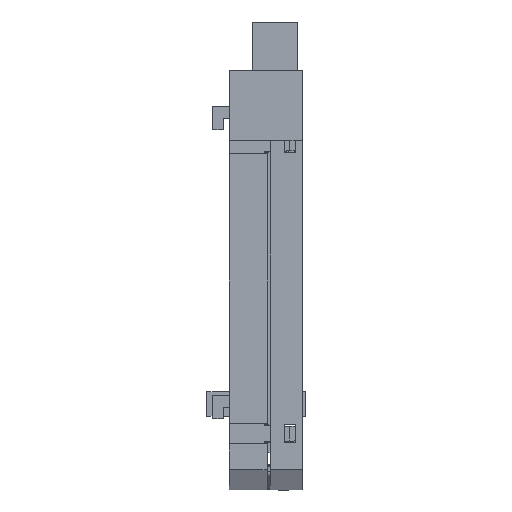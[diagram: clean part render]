
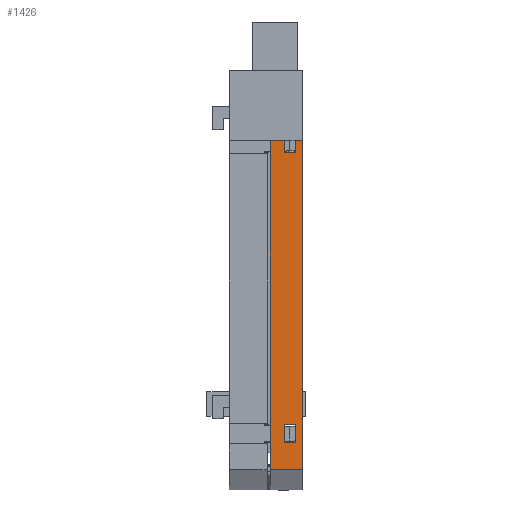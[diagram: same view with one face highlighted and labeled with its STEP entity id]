
A CAD part, front view. The second image highlights one B-rep face of the part: STEP entity #1426.
In plain terms, the highlighted planar face has unit normal (0, -1, 0).
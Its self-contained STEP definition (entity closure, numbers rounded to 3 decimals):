
#141 = LINE ( 'NONE', #4240, #29446 ) ;
#496 = ORIENTED_EDGE ( 'NONE', *, *, #35285, .F. ) ;
#662 = VECTOR ( 'NONE', #14533, 1000. ) ;
#775 = ORIENTED_EDGE ( 'NONE', *, *, #20436, .T. ) ;
#1426 = ADVANCED_FACE ( 'NONE', ( #25092, #10007, #4252 ), #25383, .F. ) ;
#1582 = AXIS2_PLACEMENT_3D ( 'NONE', #8421, #34010, #16917 ) ;
#2453 = LINE ( 'NONE', #26609, #17467 ) ;
#2573 = EDGE_LOOP ( 'NONE', ( #32146, #34829, #19950, #23705 ) ) ;
#3080 = CARTESIAN_POINT ( 'NONE',  ( 2.4, 0., -60.645 ) ) ;
#3287 = VERTEX_POINT ( 'NONE', #33517 ) ;
#3928 = EDGE_LOOP ( 'NONE', ( #28674, #36473, #496, #7624 ) ) ;
#4240 = CARTESIAN_POINT ( 'NONE',  ( 5.5, 0., 0. ) ) ;
#4252 = FACE_OUTER_BOUND ( 'NONE', #3928, .T. ) ;
#4804 = LINE ( 'NONE', #25347, #26537 ) ;
#5065 = CARTESIAN_POINT ( 'NONE',  ( 4.4, 0., -7.845 ) ) ;
#5071 = LINE ( 'NONE', #15295, #26807 ) ;
#5385 = CARTESIAN_POINT ( 'NONE',  ( 5.5, 0., 0. ) ) ;
#5935 = DIRECTION ( 'NONE',  ( 0., 0., 1. ) ) ;
#6434 = CARTESIAN_POINT ( 'NONE',  ( 4.4, 0., -60.645 ) ) ;
#6684 = CARTESIAN_POINT ( 'NONE',  ( 4.4, 0., -60.645 ) ) ;
#7269 = VERTEX_POINT ( 'NONE', #35375 ) ;
#7624 = ORIENTED_EDGE ( 'NONE', *, *, #17997, .T. ) ;
#8148 = EDGE_CURVE ( 'NONE', #8535, #27225, #4804, .T. ) ;
#8369 = LINE ( 'NONE', #6434, #21607 ) ;
#8421 = CARTESIAN_POINT ( 'NONE',  ( 5.5, 0., 0. ) ) ;
#8535 = VERTEX_POINT ( 'NONE', #32407 ) ;
#9596 = DIRECTION ( 'NONE',  ( 1., 0., 0. ) ) ;
#10007 = FACE_BOUND ( 'NONE', #2573, .T. ) ;
#10246 = EDGE_CURVE ( 'NONE', #30818, #28891, #5071, .T. ) ;
#10320 = VERTEX_POINT ( 'NONE', #24261 ) ;
#10630 = VERTEX_POINT ( 'NONE', #28351 ) ;
#11506 = CARTESIAN_POINT ( 'NONE',  ( 2.4, 0., -10.945 ) ) ;
#11693 = CARTESIAN_POINT ( 'NONE',  ( 2.4, 0., -60.645 ) ) ;
#12454 = CARTESIAN_POINT ( 'NONE',  ( 5.5, 0., -65.25 ) ) ;
#12945 = VERTEX_POINT ( 'NONE', #21345 ) ;
#13668 = CARTESIAN_POINT ( 'NONE',  ( 2.4, 0., -57.545 ) ) ;
#14533 = DIRECTION ( 'NONE',  ( -1., 0., 0. ) ) ;
#15295 = CARTESIAN_POINT ( 'NONE',  ( 4.4, 0., -10.945 ) ) ;
#15592 = DIRECTION ( 'NONE',  ( -1., 0., 0. ) ) ;
#15726 = EDGE_LOOP ( 'NONE', ( #24273, #16954, #25018, #775 ) ) ;
#16593 = LINE ( 'NONE', #11693, #662 ) ;
#16739 = DIRECTION ( 'NONE',  ( 0., 0., -1. ) ) ;
#16917 = DIRECTION ( 'NONE',  ( 0., 0., 1. ) ) ;
#16954 = ORIENTED_EDGE ( 'NONE', *, *, #30658, .T. ) ;
#16998 = DIRECTION ( 'NONE',  ( 0., 0., 1. ) ) ;
#17403 = EDGE_CURVE ( 'NONE', #30058, #3287, #16593, .T. ) ;
#17467 = VECTOR ( 'NONE', #9596, 1000. ) ;
#17726 = VERTEX_POINT ( 'NONE', #13668 ) ;
#17997 = EDGE_CURVE ( 'NONE', #20873, #10320, #141, .T. ) ;
#18015 = VECTOR ( 'NONE', #5935, 1000. ) ;
#18448 = VECTOR ( 'NONE', #31408, 1000. ) ;
#18624 = DIRECTION ( 'NONE',  ( 0., 0., -1. ) ) ;
#19391 = CARTESIAN_POINT ( 'NONE',  ( 5.5, 0., 0. ) ) ;
#19615 = EDGE_CURVE ( 'NONE', #10320, #10630, #29258, .T. ) ;
#19950 = ORIENTED_EDGE ( 'NONE', *, *, #25795, .T. ) ;
#20436 = EDGE_CURVE ( 'NONE', #28891, #8535, #26025, .T. ) ;
#20873 = VERTEX_POINT ( 'NONE', #19391 ) ;
#21345 = CARTESIAN_POINT ( 'NONE',  ( 5.5, 0., -65.25 ) ) ;
#21607 = VECTOR ( 'NONE', #23424, 1000. ) ;
#23378 = LINE ( 'NONE', #12454, #30137 ) ;
#23424 = DIRECTION ( 'NONE',  ( 0., 0., -1. ) ) ;
#23705 = ORIENTED_EDGE ( 'NONE', *, *, #24669, .T. ) ;
#24261 = CARTESIAN_POINT ( 'NONE',  ( 0., 0., 0. ) ) ;
#24273 = ORIENTED_EDGE ( 'NONE', *, *, #8148, .T. ) ;
#24669 = EDGE_CURVE ( 'NONE', #7269, #30058, #8369, .T. ) ;
#24749 = CARTESIAN_POINT ( 'NONE',  ( 2.4, 0., -7.845 ) ) ;
#25018 = ORIENTED_EDGE ( 'NONE', *, *, #10246, .T. ) ;
#25055 = EDGE_CURVE ( 'NONE', #3287, #17726, #34100, .T. ) ;
#25092 = FACE_BOUND ( 'NONE', #15726, .T. ) ;
#25327 = LINE ( 'NONE', #5385, #32003 ) ;
#25347 = CARTESIAN_POINT ( 'NONE',  ( 2.4, 0., -10.945 ) ) ;
#25383 = PLANE ( 'NONE',  #1582 ) ;
#25795 = EDGE_CURVE ( 'NONE', #17726, #7269, #2453, .T. ) ;
#26025 = LINE ( 'NONE', #11506, #18448 ) ;
#26114 = VECTOR ( 'NONE', #29907, 1000. ) ;
#26537 = VECTOR ( 'NONE', #16998, 1000. ) ;
#26609 = CARTESIAN_POINT ( 'NONE',  ( 2.4, 0., -57.545 ) ) ;
#26807 = VECTOR ( 'NONE', #35216, 1000. ) ;
#27033 = LINE ( 'NONE', #27037, #26114 ) ;
#27037 = CARTESIAN_POINT ( 'NONE',  ( 2.4, 0., -7.845 ) ) ;
#27133 = CARTESIAN_POINT ( 'NONE',  ( 0., 0., 0. ) ) ;
#27225 = VERTEX_POINT ( 'NONE', #24749 ) ;
#28351 = CARTESIAN_POINT ( 'NONE',  ( 0., 0., -65.25 ) ) ;
#28674 = ORIENTED_EDGE ( 'NONE', *, *, #19615, .T. ) ;
#28891 = VERTEX_POINT ( 'NONE', #32220 ) ;
#29258 = LINE ( 'NONE', #27133, #35929 ) ;
#29446 = VECTOR ( 'NONE', #15592, 1000. ) ;
#29907 = DIRECTION ( 'NONE',  ( 1., 0., 0. ) ) ;
#30058 = VERTEX_POINT ( 'NONE', #6684 ) ;
#30137 = VECTOR ( 'NONE', #35183, 1000. ) ;
#30658 = EDGE_CURVE ( 'NONE', #27225, #30818, #27033, .T. ) ;
#30818 = VERTEX_POINT ( 'NONE', #5065 ) ;
#31169 = EDGE_CURVE ( 'NONE', #12945, #10630, #23378, .T. ) ;
#31408 = DIRECTION ( 'NONE',  ( -1., 0., 0. ) ) ;
#32003 = VECTOR ( 'NONE', #16739, 1000. ) ;
#32146 = ORIENTED_EDGE ( 'NONE', *, *, #17403, .T. ) ;
#32220 = CARTESIAN_POINT ( 'NONE',  ( 4.4, 0., -10.945 ) ) ;
#32407 = CARTESIAN_POINT ( 'NONE',  ( 2.4, 0., -10.945 ) ) ;
#33517 = CARTESIAN_POINT ( 'NONE',  ( 2.4, 0., -60.645 ) ) ;
#34010 = DIRECTION ( 'NONE',  ( 0., 1., 0. ) ) ;
#34100 = LINE ( 'NONE', #3080, #18015 ) ;
#34829 = ORIENTED_EDGE ( 'NONE', *, *, #25055, .T. ) ;
#35183 = DIRECTION ( 'NONE',  ( -1., 0., 0. ) ) ;
#35216 = DIRECTION ( 'NONE',  ( 0., 0., -1. ) ) ;
#35285 = EDGE_CURVE ( 'NONE', #20873, #12945, #25327, .T. ) ;
#35375 = CARTESIAN_POINT ( 'NONE',  ( 4.4, 0., -57.545 ) ) ;
#35929 = VECTOR ( 'NONE', #18624, 1000. ) ;
#36473 = ORIENTED_EDGE ( 'NONE', *, *, #31169, .F. ) ;
